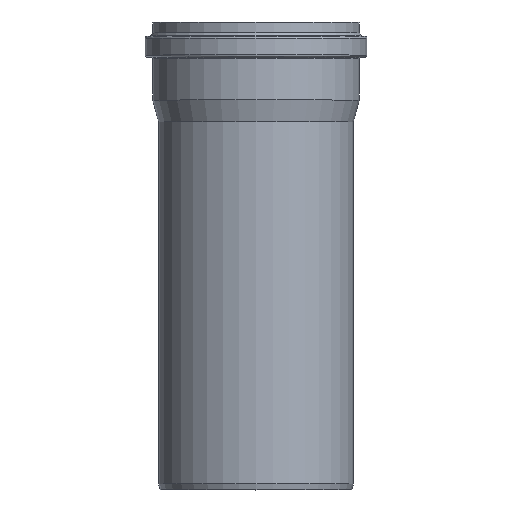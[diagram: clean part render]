
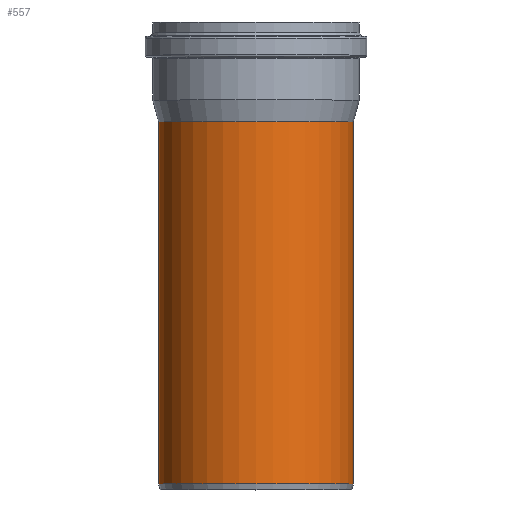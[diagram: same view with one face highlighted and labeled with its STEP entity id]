
A CAD part, top view. The second image highlights one B-rep face of the part: STEP entity #557.
In plain terms, the highlighted cylindrical face has radius 250 mm (diameter 500 mm), a full revolution.
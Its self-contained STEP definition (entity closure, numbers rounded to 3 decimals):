
#54=FACE_OUTER_BOUND('',#87,.T.);
#87=EDGE_LOOP('',(#430,#431,#432,#433));
#117=LINE('',#1006,#135);
#135=VECTOR('',#799,250.);
#174=CIRCLE('',#641,250.);
#175=CIRCLE('',#643,250.);
#239=VERTEX_POINT('',#1000);
#240=VERTEX_POINT('',#1004);
#307=EDGE_CURVE('',#239,#239,#174,.T.);
#309=EDGE_CURVE('',#240,#240,#175,.T.);
#310=EDGE_CURVE('',#240,#239,#117,.T.);
#430=ORIENTED_EDGE('',*,*,#309,.F.);
#431=ORIENTED_EDGE('',*,*,#310,.T.);
#432=ORIENTED_EDGE('',*,*,#307,.T.);
#433=ORIENTED_EDGE('',*,*,#310,.F.);
#540=CYLINDRICAL_SURFACE('',#642,250.);
#557=ADVANCED_FACE('',(#54),#540,.T.);
#641=AXIS2_PLACEMENT_3D('',#1001,#792,#793);
#642=AXIS2_PLACEMENT_3D('',#1003,#795,#796);
#643=AXIS2_PLACEMENT_3D('',#1005,#797,#798);
#792=DIRECTION('center_axis',(0.,-1.,0.));
#793=DIRECTION('ref_axis',(1.,0.,0.));
#795=DIRECTION('center_axis',(0.,-1.,0.));
#796=DIRECTION('ref_axis',(-1.,0.,0.));
#797=DIRECTION('center_axis',(0.,-1.,0.));
#798=DIRECTION('ref_axis',(1.,0.,0.));
#799=DIRECTION('',(0.,1.,0.));
#1000=CARTESIAN_POINT('',(250.,944.019,0.));
#1001=CARTESIAN_POINT('Origin',(0.,944.019,0.));
#1003=CARTESIAN_POINT('Origin',(0.,479.51,0.));
#1004=CARTESIAN_POINT('',(250.,15.,0.));
#1005=CARTESIAN_POINT('Origin',(0.,15.,0.));
#1006=CARTESIAN_POINT('',(250.,479.51,0.));
